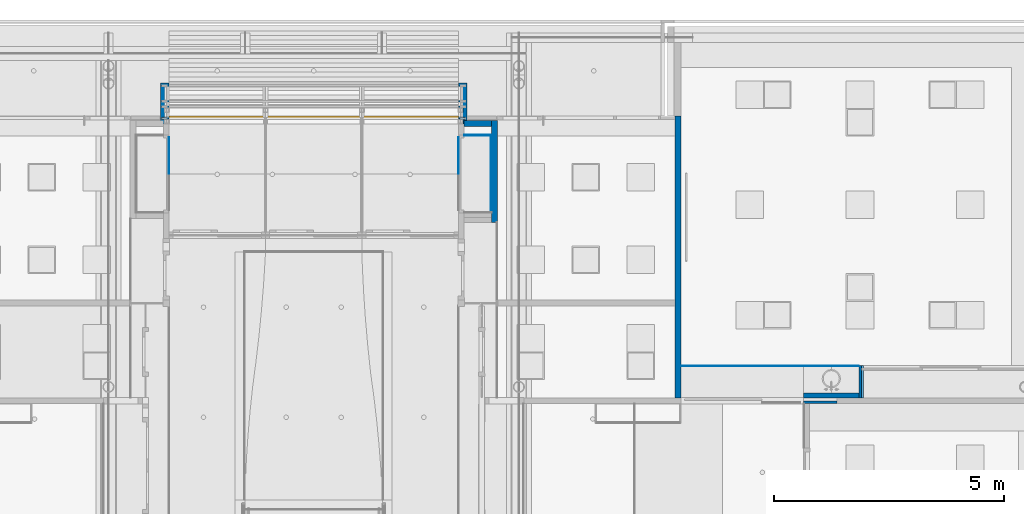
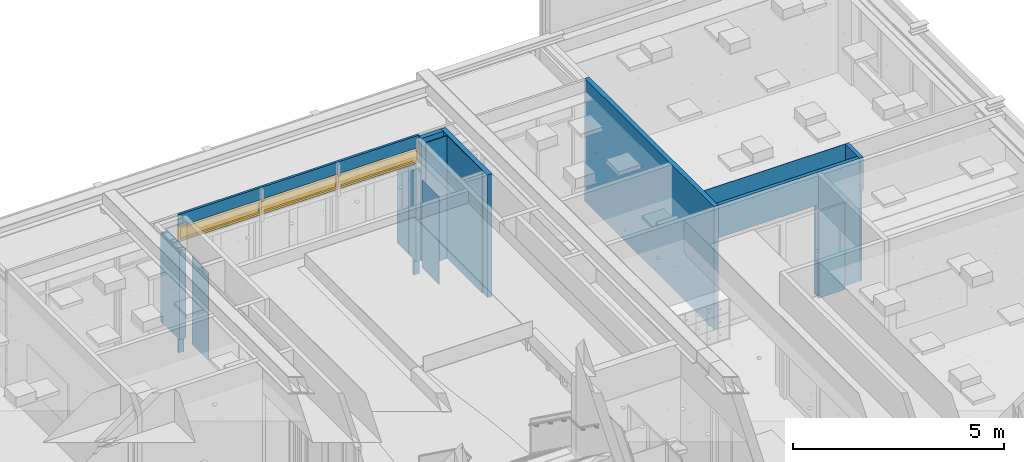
# One storey, part 84 of 347: 15 walls, 1 window, 3 openings.
"""IFC2X3 building model written with IfcOpenShell, lengths in millimetres."""

import ifcopenshell
import ifcopenshell.guid

model = None  # the IFC model being written
_history = None  # IfcOwnerHistory: only IFC2X3 demands one
_inside = {}  # id of a spatial element -> (the spatial element, [elements in it])
_under = {}  # id of a project, library or spatial element -> (it, [spatial elements below it])
_declared = {}  # id of a project -> (the project, [libraries it declares])
_typed = {}  # id of a type object -> (the type object, [elements of that type])
_made_of = {}  # id of a material, layer set ... -> (it, [elements and type objects made of it])


def new_model(schema):
    """Start an empty IFC model of exactly this schema.

    Asked for "IFC4X3", IfcOpenShell would pick the latest addendum, in which some entities
    have other attributes; the version numbers below select the first issue.
    IFC2X3 requires an IfcOwnerHistory on every rooted entity: one is made here for all.
    """
    global model, _history
    if schema == "IFC4X3":
        model = ifcopenshell.file(schema_version=(4, 3, 0, 0))
    else:
        model = ifcopenshell.file(schema=schema)
    _inside.clear()
    _under.clear()
    _declared.clear()
    _typed.clear()
    _made_of.clear()
    _history = None
    if model.schema == "IFC2X3":
        org = make("IfcOrganization", Name="unknown")
        user = make(
            "IfcPersonAndOrganization",
            ThePerson=make("IfcPerson", FamilyName="unknown"),
            TheOrganization=org,
        )
        app = make(
            "IfcApplication",
            ApplicationDeveloper=org,
            Version="unknown",
            ApplicationFullName="unknown",
            ApplicationIdentifier="unknown",
        )
        _history = make(
            "IfcOwnerHistory",
            OwningUser=user,
            OwningApplication=app,
            ChangeAction="ADDED",
            CreationDate=0,
        )
    return model


def make(cls, **values):
    """One entity of the class cls with the attributes given. An attribute that is None is left unset."""
    return model.create_entity(
        cls, **{name: value for name, value in values.items() if value is not None}
    )


def entity(cls, *values):
    """Any entity or typed value of the class cls, its attributes in the order of the schema. None: left unset."""
    e = model.create_entity(cls)
    for i, value in enumerate(values):
        if value is not None:
            e[i] = value
    return e


def rooted(cls, **values):
    """An entity with a GlobalId (a new one), such as an element, a storey or a relation."""
    return make(cls, GlobalId=ifcopenshell.guid.new(), OwnerHistory=_history, **values)


def si_unit(unit_type, name, prefix=None):
    """IfcSIUnit, for example si_unit("LENGTHUNIT", "METRE", prefix="MILLI")."""
    return make("IfcSIUnit", UnitType=unit_type, Prefix=prefix, Name=name)


def converted_unit(unit_type, name, factor, base, dimensions=None, offset=None):
    """IfcConversionBasedUnit, such as the inch: factor (a typed value) times the base unit."""
    return make(
        "IfcConversionBasedUnit"
        if offset is None
        else "IfcConversionBasedUnitWithOffset",
        ConversionOffset=offset,
        Dimensions=None
        if dimensions is None
        else entity("IfcDimensionalExponents", *dimensions),
        UnitType=unit_type,
        Name=name,
        ConversionFactor=make(
            "IfcMeasureWithUnit", ValueComponent=factor, UnitComponent=base
        ),
    )


def derived_unit(unit_type, elements):
    """IfcDerivedUnit: a product of units, each with its exponent."""
    return make(
        "IfcDerivedUnit",
        Elements=[
            make("IfcDerivedUnitElement", Unit=unit, Exponent=power)
            for unit, power in elements
        ],
        UnitType=unit_type,
    )


def money_unit(currency):
    """IfcMonetaryUnit."""
    return make("IfcMonetaryUnit", Currency=currency)


def assignment(units):
    """IfcUnitAssignment: the units of a project."""
    return None if units is None else make("IfcUnitAssignment", Units=units)


def point(xyz):
    """IfcCartesianPoint."""
    return None if xyz is None else make("IfcCartesianPoint", Coordinates=xyz)


def direction(xyz):
    """IfcDirection."""
    return None if xyz is None else make("IfcDirection", DirectionRatios=xyz)


def frame(location, z_axis=None, x_axis=None):
    """IfcAxis2Placement3D, a coordinate frame: its origin and axes. An axis left out is left unset."""
    return make(
        "IfcAxis2Placement3D",
        Location=point(location),
        Axis=direction(z_axis),
        RefDirection=direction(x_axis),
    )


def origin_with_axes():
    """The frame at (0, 0, 0) with the z axis (0, 0, 1) and the x axis (1, 0, 0) written out."""
    return frame((0.0, 0.0, 0.0), z_axis=(0.0, 0.0, 1.0), x_axis=(1.0, 0.0, 0.0))


def place(relative_to, where):
    """IfcLocalPlacement: puts the frame where relative to a parent placement (None: the world)."""
    return make(
        "IfcLocalPlacement", PlacementRelTo=relative_to, RelativePlacement=where
    )


def context(
    kind, dimensions, precision=None, world=None, true_north=None, identifier=None
):
    """IfcGeometricRepresentationContext, for example the 3D "Model" context."""
    return make(
        "IfcGeometricRepresentationContext",
        ContextIdentifier=identifier,
        ContextType=kind,
        CoordinateSpaceDimension=dimensions,
        Precision=precision,
        WorldCoordinateSystem=world,
        TrueNorth=true_north,
    )


def subcontext(parent, identifier, kind, view, scale=None):
    """IfcGeometricRepresentationSubContext, for example "Body" below "Model"."""
    return make(
        "IfcGeometricRepresentationSubContext",
        ContextIdentifier=identifier,
        ContextType=kind,
        ParentContext=parent,
        TargetScale=scale,
        TargetView=view,
    )


def project(units=None, contexts=None):
    """IfcProject with its units and contexts."""
    return rooted(
        "IfcProject",
        Name="project",
        RepresentationContexts=contexts,
        UnitsInContext=assignment(units),
    )


def spatial(cls, under=None, at=None, **own):
    """A site, building, storey or space (cls), placed at a placement, below another one or the project."""
    s = rooted(cls, ObjectPlacement=at, **own)
    if under is not None:
        _under.setdefault(under.id(), (under, []))[1].append(s)
    return s


def faces_of(points, faces, orient=None, outer=None):
    """IfcFace entities. A face is a list of loops; a loop is a list of indices into points, from 0.

    orient and outer hold one flag for each loop. By default every Orientation is true, the
    first loop of a face is its IfcFaceOuterBound and the others are IfcFaceBound.
    """
    made = []
    for i, loops in enumerate(faces):
        bounds = []
        for j, loop in enumerate(loops):
            is_outer = j == 0 if outer is None else outer[i][j]
            bounds.append(
                make(
                    "IfcFaceOuterBound" if is_outer else "IfcFaceBound",
                    Bound=make("IfcPolyLoop", Polygon=[points[k] for k in loop]),
                    Orientation=True if orient is None else orient[i][j],
                )
            )
        made.append(make("IfcFace", Bounds=bounds))
    return made


def open_shell(faces, orient=None, outer=None):
    """The faces of one IfcOpenShell. surface_model builds it on its shared points."""
    return ("IfcOpenShell", faces, orient, outer)


def faceted_brep(points, faces, orient=None, outer=None, voids=None):
    """IfcFacetedBrep: a solid bounded by flat faces; with voids (closed shells), ...WithVoids."""
    shared = [point(p) for p in points]
    hull = make("IfcClosedShell", CfsFaces=faces_of(shared, faces, orient, outer))
    if voids is None:
        return make("IfcFacetedBrep", Outer=hull)
    return make(
        "IfcFacetedBrepWithVoids",
        Outer=hull,
        Voids=[
            make(cls, CfsFaces=faces_of(shared, fs, o, b)) for cls, fs, o, b in voids
        ],
    )


def surface_model(cls, points, shells):
    """IfcFaceBasedSurfaceModel or IfcShellBasedSurfaceModel (cls): surfaces that need not close."""
    shared = [point(p) for p in points]
    made = [make(c, CfsFaces=faces_of(shared, fs, o, b)) for c, fs, o, b in shells]
    if cls == "IfcFaceBasedSurfaceModel":
        return make(cls, FbsmFaces=made)
    return make(cls, SbsmBoundary=made)


def shape(context_of_items, identifier, shape_type, items):
    """IfcShapeRepresentation: the items that make up one representation, for example the "Body"."""
    return make(
        "IfcShapeRepresentation",
        ContextOfItems=context_of_items,
        RepresentationIdentifier=identifier,
        RepresentationType=shape_type,
        Items=items,
    )


def material(Name=None, Category=None):
    """IfcMaterial."""
    return make("IfcMaterial", Name=Name, Category=Category)


def made_of(thing, what):
    """Note that an element or type object is made of a material, layer set ...; save() writes the relation."""
    if what is not None:
        _made_of.setdefault(what.id(), (what, []))[1].append(thing)
    return thing


def type_object(cls, material=None, **own):
    """A type object (cls), such as IfcWallType, which elements share."""
    return made_of(rooted(cls, **own), material)


def element(
    cls,
    number,
    at=None,
    inside=None,
    cuts=None,
    type_object=None,
    material=None,
    context=None,
    identifier="Body",
    shape_type=None,
    held_by="IfcProductDefinitionShape",
    body=None,
    shapes=None,
    **own,
):
    """One element of the class cls, such as IfcWall. Its Tag is "e" and its number.

    at: its placement. inside: the storey or other place that contains it. cuts: it is an
    opening in that element (IfcRelVoidsElement). A single representation is given by context,
    identifier, shape_type and body (its items); several are given by shapes. held_by: the class
    of the entity that holds the representations. save() writes the other relations.
    """
    e = rooted(cls, Tag="e%d" % number, ObjectPlacement=at, **own)
    if body is not None:
        shapes = [shape(context, identifier, shape_type, body)]
    if shapes is not None:
        e.Representation = make(held_by, Representations=shapes)
    if inside is not None:
        _inside.setdefault(inside.id(), (inside, []))[1].append(e)
    if cuts is not None:
        rooted(
            "IfcRelVoidsElement", RelatingBuildingElement=cuts, RelatedOpeningElement=e
        )
    if type_object is not None:
        _typed.setdefault(type_object.id(), (type_object, []))[1].append(e)
    return made_of(e, material)


def fill(opening, filler):
    """IfcRelFillsElement: the door or window that sits in an opening."""
    return rooted(
        "IfcRelFillsElement",
        RelatingOpeningElement=opening,
        RelatedBuildingElement=filler,
    )


def aggregate(whole, parts):
    """IfcRelAggregates: a whole, such as a stair, and the parts it consists of."""
    return rooted("IfcRelAggregates", RelatingObject=whole, RelatedObjects=parts)


def save(model, path):
    """Write the relations noted so far, then the file.

    IfcRelAggregates (storeys below a building ...), IfcRelContainedInSpatialStructure (elements
    in a storey), IfcRelDefinesByType, IfcRelAssociatesMaterial and IfcRelDeclares: one each for
    every whole, place, type object, material and project.
    """
    for whole, parts in _under.values():
        aggregate(whole, parts)
    for where, things in _inside.values():
        rooted(
            "IfcRelContainedInSpatialStructure",
            RelatedElements=things,
            RelatingStructure=where,
        )
    for kind, things in _typed.values():
        rooted("IfcRelDefinesByType", RelatedObjects=things, RelatingType=kind)
    for what, things in _made_of.values():
        rooted("IfcRelAssociatesMaterial", RelatedObjects=things, RelatingMaterial=what)
    for by, libraries in _declared.values():
        rooted("IfcRelDeclares", RelatingContext=by, RelatedDefinitions=libraries)
    model.write(path)


model = new_model("IFC2X3")

# Units and contexts
model_context = context("Model", 3, precision=0.01, world=origin_with_axes(), true_north=direction((0.0, 1.0)))
plan_context = context("Plan", 3, precision=0.01, world=origin_with_axes(), true_north=direction((0.0, 1.0)))
body_context = subcontext(model_context, "Body", "Model", "MODEL_VIEW")
ifc_project = project(units=[si_unit("LENGTHUNIT", "METRE", prefix="MILLI"), si_unit("AREAUNIT", "SQUARE_METRE"), si_unit("VOLUMEUNIT", "CUBIC_METRE"), converted_unit("PLANEANGLEUNIT", "DEGREE", entity("IfcPlaneAngleMeasure", 0.0174532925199), si_unit("PLANEANGLEUNIT", "RADIAN"), dimensions=[0, 0, 0, 0, 0, 0, 0]), money_unit("EUR"), converted_unit("TIMEUNIT", "Year", entity("IfcTimeMeasure", 31556926.0), si_unit("TIMEUNIT", "SECOND"), dimensions=[0, 0, 1, 0, 0, 0, 0]), si_unit("MASSUNIT", "GRAM", prefix="KILO"), si_unit("THERMODYNAMICTEMPERATUREUNIT", "DEGREE_CELSIUS"), si_unit("LUMINOUSINTENSITYUNIT", "LUMEN"), si_unit("ENERGYUNIT", "JOULE", prefix="MEGA"), derived_unit("THERMALCONDUCTANCEUNIT", [(si_unit("POWERUNIT", "WATT"), 1), (si_unit("LENGTHUNIT", "METRE"), -1), (si_unit("THERMODYNAMICTEMPERATUREUNIT", "KELVIN"), -1)]), derived_unit("SPECIFICHEATCAPACITYUNIT", [(si_unit("ENERGYUNIT", "JOULE"), 1), (si_unit("MASSUNIT", "GRAM", prefix="KILO"), -1), (si_unit("THERMODYNAMICTEMPERATUREUNIT", "KELVIN"), -1)]), derived_unit("MASSDENSITYUNIT", [(si_unit("MASSUNIT", "GRAM", prefix="KILO"), 1), (si_unit("VOLUMEUNIT", "CUBIC_METRE"), -1)])], contexts=[model_context, plan_context])

# Site, building, storey
site_placement = place(None, origin_with_axes())
site = spatial("IfcSite", under=ifc_project, at=site_placement, Name="Site", CompositionType="ELEMENT")
building_placement = place(site_placement, origin_with_axes())
building = spatial("IfcBuilding", under=site, at=building_placement, Name="Naam gebouw", CompositionType="ELEMENT")
storey_placement = place(building_placement, origin_with_axes())
storey = spatial("IfcBuildingStorey", under=building, at=storey_placement, Name="begane grond", CompositionType="ELEMENT", Elevation=0.0)

# Walls
ifc_material_1 = material(Name="ALG - LICHTE SCHEIDINGSWAND")
wall_type_1 = type_object("IfcWallType", Name="ALG LSW 125 125", PredefinedType="NOTDEFINED")
wall_1_placement = place(storey_placement, frame((44075.0, 42910.5, 0.0), z_axis=(0.0, 0.0, 1.0), x_axis=(0.0, 1.0, 0.0)))
element("IfcWall", 1, at=wall_1_placement, inside=storey, type_object=wall_type_1, material=ifc_material_1, Name="22_GF 125 ECO DGS/2.75.2A", context=body_context, shape_type="Brep", body=[
    faceted_brep([(2214.5, 0.0, 3560.0), (2214.5, 125.0, 3560.0), (0.0, 125.0, 3560.0), (0.0, 0.0, 3560.0), (2214.5, 125.0, 0.0), (2214.5, 0.0, 0.0), (0.0, 125.0, 0.0), (0.0, 0.0, 0.0)], [[[0, 1, 2, 3]], [[4, 1, 0, 5]], [[4, 6, 2, 1]], [[6, 7, 3, 2]], [[5, 0, 3, 7]], [[4, 5, 7, 6]]]),
])
wall_2_placement = place(storey_placement, frame((48075.0, 38962.5, 0.0), z_axis=(0.0, 0.0, 1.0), x_axis=(0.0, 1.0, 0.0)))
element("IfcWall", 2, at=wall_2_placement, inside=storey, type_object=wall_type_1, material=ifc_material_1, Name="22_GF 125 ECO DGS/2.75.2A", context=body_context, shape_type="Brep", body=[
    faceted_brep([(125.0, 125.0, 0.0), (6262.5, 125.0, 0.0), (6262.5, 0.0, 0.0), (125.0, 0.0, 0.0), (125.0, 125.0, 3560.0), (6262.5, 125.0, 3560.0), (6262.5, 0.0, 3560.0), (125.0, 0.0, 3560.0)], [[[0, 1, 2, 3]], [[4, 5, 1, 0]], [[2, 1, 5, 6]], [[3, 2, 6, 7]], [[4, 0, 3, 7]], [[7, 6, 5, 4]]]),
])
wall_3_placement = place(storey_placement, frame((44075.0, 45000.0, 0.0), z_axis=(0.0, 0.0, 1.0), x_axis=(-1.0, 0.0, 0.0)))
element("IfcWall", 3, at=wall_3_placement, inside=storey, type_object=wall_type_1, material=ifc_material_1, Name="22_GF 125 ECO DGS/2.75.2A", context=body_context, shape_type="Brep", body=[
    faceted_brep([(725.0, -125.0, 0.0), (725.0, -125.0, 2580.0), (665.0, -125.0, 2580.0), (665.0, -125.0, 2765.0), (725.0, -125.0, 2765.0), (725.0, -125.0, 3560.0), (125.0, -125.0, 3560.0), (125.0, -125.0, 0.0), (725.0, -53.0, 2765.0), (725.0, -53.0, 2580.0), (725.0, 0.0, 0.0), (725.0, 0.0, 3560.0), (665.0, -53.0, 2580.0), (665.0, -53.0, 2765.0), (125.0, 0.0, 3560.0), (125.0, 0.0, 0.0)], [[[0, 1, 2, 3, 4, 5, 6, 7]], [[8, 9, 1, 0, 10, 11, 5, 4]], [[12, 2, 1, 9]], [[13, 3, 2, 12]], [[8, 4, 3, 13]], [[6, 5, 11, 14]], [[15, 7, 6, 14]], [[15, 10, 0, 7]], [[12, 9, 8, 13]], [[14, 11, 10, 15]]]),
])
wall_type_2 = type_object("IfcWallType", Name="44 koof 50", PredefinedType="NOTDEFINED")
wall_4_placement = place(storey_placement, frame((48075.0, 39787.5, 2600.0), z_axis=(0.0, 0.0, 1.0), x_axis=(1.0, 0.0, 0.0)))
element("IfcWall", 4, at=wall_4_placement, inside=storey, type_object=wall_type_2, material=ifc_material_1, Name="21_22 betonwand", context=body_context, shape_type="Brep", body=[
    faceted_brep([(3875.0, -12.0, 960.0), (3875.0, -12.0, 12.0), (3875.0, 0.0, 12.0), (3875.0, 0.0, 960.0), (0.0, -12.0, 960.0), (0.0, -12.0, 12.0), (0.0, 0.0, 12.0), (0.0, 0.0, 960.0)], [[[0, 1, 2, 3]], [[4, 5, 1, 0]], [[5, 6, 2, 1]], [[3, 2, 6, 7]], [[7, 4, 0, 3]], [[7, 6, 5, 4]]]),
])
ifc_material_2 = material(Name="Hout - Spaanplaat slave")
wall_type_3 = type_object("IfcWallType", Name="Hout - Spaanplaat slave 18", PredefinedType="NOTDEFINED")
wall_5_placement = place(storey_placement, frame((43225.0, 44815.5, 0.0), z_axis=(0.0, 0.0, 1.0), x_axis=(1.0, 0.0, 0.0)))
element("IfcWall", 5, at=wall_5_placement, inside=storey, type_object=wall_type_3, material=ifc_material_2, Name="22_GF 125 ECO DGS/2.75.3A", context=body_context, shape_type="Brep", body=[
    faceted_brep([(707.0, 0.0, 0.0), (125.0, 0.0, 0.0), (125.0, 0.0, 3560.0), (707.0, 0.0, 3560.0), (707.0, -18.0, 0.0), (125.0, -18.0, 0.0), (125.0, -18.0, 3560.0), (707.0, -18.0, 3560.0)], [[[0, 1, 2, 3]], [[1, 0, 4, 5]], [[1, 5, 6, 2]], [[2, 6, 7, 3]], [[4, 0, 3, 7]], [[5, 4, 7, 6]]]),
])
wall_6_placement = place(storey_placement, frame((43950.0, 43115.5, 0.0), z_axis=(0.0, 0.0, 1.0), x_axis=(0.0, 1.0, 0.0)))
element("IfcWall", 6, at=wall_6_placement, inside=storey, type_object=wall_type_3, material=ifc_material_2, Name="22_GF 125 ECO DGS/2.75.2A", context=body_context, shape_type="Brep", body=[
    faceted_brep([(1700.0, 18.0, 0.0), (1700.0, 18.0, 3560.0), (1700.0, 0.0, 3560.0), (1700.0, 0.0, 0.0), (18.0, 18.0, 0.0), (18.0, 18.0, 3560.0), (18.0, -1.47521532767e-05, 3560.0), (18.0, -1.47521532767e-05, 0.0)], [[[0, 1, 2, 3]], [[4, 5, 1, 0]], [[5, 6, 2, 1]], [[3, 2, 6, 7]], [[0, 3, 7, 4]], [[7, 6, 5, 4]]]),
])

# Wall, opening
wall_type_4 = type_object("IfcWallType", Name="ALG LSW 100", PredefinedType="NOTDEFINED")
wall_7_placement = place(storey_placement, frame((48075.0, 39187.5, 0.0), z_axis=(0.0, 0.0, 1.0), x_axis=(1.0, 0.0, 0.0)))
wall_7 = element("IfcWall", 7, at=wall_7_placement, inside=storey, type_object=wall_type_4, material=ifc_material_1, Name="22_GF 125 ECO DGS/2.75.2A", context=body_context, shape_type="Brep", body=[
    faceted_brep([(2675.0, 0.0, 0.0), (2675.0, 0.0, 2600.0), (2675.0, 0.0, 2612.0), (0.0, 0.0, 2612.0), (0.0, 0.0, 3560.0), (3875.0, 0.0, 3560.0), (3875.0, 0.0, 2600.0), (3875.0, 0.0, 0.0), (2675.0, -100.0, 2600.0), (2675.0, -100.0, 0.0), (2675.0, -100.0, 2612.0), (0.0, -100.0, 2612.0), (0.0, -100.0, 3560.0), (3875.0, -100.0, 3560.0), (3875.0, -100.0, 2600.0), (3875.0, -100.0, 0.0)], [[[0, 1, 2, 3, 4, 5, 6, 7]], [[8, 1, 0, 9]], [[1, 8, 10, 2]], [[3, 2, 10, 11]], [[12, 4, 3, 11]], [[13, 5, 4, 12]], [[14, 15, 7, 6, 5, 13]], [[9, 0, 7, 15]], [[8, 9, 15, 14, 13, 12, 11, 10]]]),
])
opening_1_placement = place(wall_7_placement, frame((1337.5, 0.0, 0.0), z_axis=(0.0, 0.0, 1.0), x_axis=(1.0, 0.0, 0.0)))
element("IfcOpeningElement", 8, at=opening_1_placement, cuts=wall_7, Name="32_-", context=body_context, shape_type="Brep", body=[
    faceted_brep([(-1337.5, -100.0, 0.0), (-1337.5, -100.0, 2600.0), (-1337.5, 200.0, 2600.0), (-1337.5, 200.0, 0.0), (1337.5, -100.0, 0.0), (1337.5, -100.0, 2600.0), (1337.5, 200.0, 2600.0), (1337.5, 200.0, 0.0)], [[[0, 1, 2, 3]], [[0, 4, 5, 1]], [[1, 5, 6, 2]], [[3, 2, 6, 7]], [[4, 0, 3, 7]], [[5, 4, 7, 6]]]),
])

# Wall, openings, window
ifc_material_3 = material(Name="31 pui/kozijn")
wall_type_5 = type_object("IfcWallType", Name="31 pui/kozijn 62", PredefinedType="NOTDEFINED")
wall_8_placement = place(storey_placement, frame((36775.0, 45153.0, -450.0), z_axis=(0.0, 0.0, 1.0), x_axis=(1.0, 0.0, 0.0)))
wall_8 = element("IfcWall", 9, at=wall_8_placement, inside=storey, type_object=wall_type_5, material=ifc_material_3, Name="21_53 wandtegels keramisch", context=body_context, shape_type="Brep", body=[
    faceted_brep([(110.0, 38.0, 450.0), (110.0, 5.0, 450.0), (150.0, 5.0, 450.0), (150.0, 62.0, 450.0), (0.0, 62.0, 450.0), (0.0, 38.0, 450.0), (110.0, 38.0, 380.0), (110.0, 5.0, 380.0), (150.0, 5.0, 380.0), (150.0, 0.0, 380.0), (150.0, 0.0, 0.0), (150.0, 62.0, 0.0), (0.0, 62.0, 0.0), (0.0, 0.0, 380.0), (0.0, 38.0, 380.0), (0.0, 0.0, 0.0), (145.0, 0.0, 380.0)], [[[0, 1, 2, 3, 4, 5]], [[6, 7, 1, 0]], [[7, 8, 2, 1]], [[2, 8, 9, 10, 11, 3]], [[4, 3, 11, 12]], [[13, 14, 5, 4, 12, 15]], [[6, 0, 5, 14]], [[13, 16, 9, 8, 7, 6, 14]], [[9, 16, 13, 15, 10]], [[15, 12, 11, 10]]]),
    faceted_brep([(6450.0, 62.0, 450.0), (6450.0, 5.0, 450.0), (6490.0, 5.0, 450.0), (6490.0, 38.0, 450.0), (6600.0, 38.0, 450.0), (6600.0, 62.0, 450.0), (6450.0, 0.0, 380.0), (6450.0, 5.0, 380.0), (6450.0, 62.0, 0.0), (6450.0, 0.0, 0.0), (6490.0, 5.0, 380.0), (6490.0, 38.0, 380.0), (6600.0, 38.0, 380.0), (6600.0, 0.0, 380.0), (6600.0, 0.0, 0.0), (6600.0, 62.0, 0.0), (6455.0, 0.0, 380.0)], [[[0, 1, 2, 3, 4, 5]], [[6, 7, 1, 0, 8, 9]], [[7, 10, 2, 1]], [[3, 2, 10, 11]], [[11, 12, 4, 3]], [[4, 12, 13, 14, 15, 5]], [[15, 8, 0, 5]], [[11, 10, 7, 6, 16, 13, 12]], [[15, 14, 9, 8]], [[13, 16, 6, 9, 14]]]),
    faceted_brep([(0.0, 62.0, 3225.0), (6600.0, 62.0, 3225.0), (6600.0, 62.0, 3215.0), (0.0, 62.0, 3215.0), (6600.0, 0.0, 3225.0), (0.0, 0.0, 3225.0), (6600.0, 0.0, 3215.0), (0.0, 0.0, 3215.0)], [[[0, 1, 2, 3]], [[4, 1, 0, 5]], [[1, 4, 6, 2]], [[3, 2, 6, 7]], [[5, 0, 3, 7]], [[4, 5, 7, 6]]]),
    faceted_brep([(6600.0, 0.0, 3660.0), (6600.0, 62.0, 3660.0), (6600.0, 62.0, 4010.0), (6600.0, 0.0, 4010.0), (0.0, 62.0, 3660.0), (0.0, 0.0, 3660.0), (0.0, 62.0, 4010.0), (0.0, 0.0, 4010.0)], [[[0, 1, 2, 3]], [[4, 1, 0, 5]], [[1, 4, 6, 2]], [[6, 7, 3, 2]], [[5, 0, 3, 7]], [[4, 5, 7, 6]]]),
])
opening_2_placement = place(wall_8_placement, frame((3300.0, 0.0, 3225.0), z_axis=(0.0, 0.0, 1.0), x_axis=(1.0, 0.0, 0.0)))
opening_2 = element("IfcOpeningElement", 10, at=opening_2_placement, cuts=wall_8, Name="32_merk-AQ", context=body_context, shape_type="Brep", body=[
    faceted_brep([(3300.0, 134.0, 0.0), (3300.0, 134.0, 435.0), (3300.0, -62.0, 435.0), (3300.0, -62.0, 0.0), (-3300.0, 134.0, 0.0), (-3300.0, 134.0, 435.0), (-3300.0, -62.0, 435.0), (-3300.0, -62.0, 0.0)], [[[0, 1, 2, 3]], [[0, 4, 5, 1]], [[1, 5, 6, 2]], [[3, 2, 6, 7]], [[4, 0, 3, 7]], [[5, 4, 7, 6]]]),
])
opening_3_placement = place(wall_8_placement, frame((3300.0, 0.0, 450.0), z_axis=(0.0, 0.0, 1.0), x_axis=(1.0, 0.0, 0.0)))
element("IfcOpeningElement", 11, at=opening_3_placement, cuts=wall_8, Name="32_-", context=body_context, shape_type="Brep", body=[
    faceted_brep([(-3150.0, -62.0, 0.0), (-3150.0, -62.0, 2600.0), (-3150.0, 124.0, 2600.0), (-3150.0, 124.0, 0.0), (3150.0, -62.0, 0.0), (3150.0, -62.0, 2600.0), (3150.0, 124.0, 2600.0), (3150.0, 124.0, 0.0)], [[[0, 1, 2, 3]], [[0, 4, 5, 1]], [[1, 5, 6, 2]], [[3, 2, 6, 7]], [[4, 0, 3, 7]], [[5, 4, 7, 6]]]),
])
window_style = type_object("IfcWindowStyle", Name="Rnx horizontaal 25", ConstructionType="NOTDEFINED", OperationType="TRIPLE_PANEL_VERTICAL", ParameterTakesPrecedence=False, Sizeable=False)
window_placement = place(opening_2_placement, frame((3300.0, 0.0, 0.0), z_axis=(0.0, 0.0, 1.0), x_axis=(-1.0, 0.0, 0.0)))
window = element("IfcWindow", 12, at=window_placement, inside=storey, type_object=window_style, Name="32_merk-AQ", ObjectType="WINDOW", OverallHeight=435.0, OverallWidth=6600.0, context=body_context, shape_type="SurfaceModel", body=[
    faceted_brep([(6546.0, -72.0, 381.0), (6600.0, -72.0, 381.0), (6600.0, 0.0, 381.0), (6546.0, 0.0, 381.0), (6546.0, -72.0, 54.0), (6600.0, -72.0, 54.0), (6600.0, 0.0, 54.0), (6546.0, 0.0, 54.0)], [[[0, 1, 2, 3]], [[0, 4, 5, 1]], [[1, 5, 6, 2]], [[3, 2, 6, 7]], [[4, 0, 3, 7]], [[5, 4, 7, 6]]]),
    faceted_brep([(54.0, -72.0, 54.0), (0.0, -72.0, 54.0), (0.0, 0.0, 54.0), (54.0, 0.0, 54.0), (54.0, -72.0, 381.0), (0.0, -72.0, 381.0), (0.0, 0.0, 381.0), (54.0, 0.0, 381.0)], [[[0, 1, 2, 3]], [[0, 4, 5, 1]], [[1, 5, 6, 2]], [[3, 2, 6, 7]], [[4, 0, 3, 7]], [[5, 4, 7, 6]]]),
    faceted_brep([(54.0, -72.0, 381.0), (0.0, -72.0, 381.0), (0.0, 0.0, 381.0), (54.0, 0.0, 381.0), (2218.0, -72.0, 381.0), (2272.0, -72.0, 381.0), (4323.0, -72.0, 381.0), (4377.0, -72.0, 381.0), (6546.0, -72.0, 381.0), (6600.0, -72.0, 381.0), (6600.0, -72.0, 435.0), (0.0, -72.0, 435.0), (0.0, 0.0, 435.0), (6600.0, 0.0, 435.0), (6600.0, 0.0, 381.0), (6546.0, 0.0, 381.0), (4377.0, 0.0, 381.0), (4323.0, 0.0, 381.0), (2272.0, 0.0, 381.0), (2218.0, 0.0, 381.0)], [[[0, 1, 2, 3]], [[0, 4, 5, 6, 7, 8, 9, 10, 11, 1]], [[1, 11, 12, 2]], [[3, 2, 12, 13, 14, 15, 16, 17, 18, 19]], [[4, 0, 3, 19]], [[5, 4, 19, 18]], [[6, 5, 18, 17]], [[7, 6, 17, 16]], [[8, 7, 16, 15]], [[9, 8, 15, 14]], [[10, 9, 14, 13]], [[11, 10, 13, 12]]]),
    faceted_brep([(2218.0, -72.0, 54.0), (2272.0, -72.0, 54.0), (2272.0, 0.0, 54.0), (2218.0, 0.0, 54.0), (54.0, -72.0, 54.0), (0.0, -72.0, 54.0), (0.0, -72.0, 0.0), (6600.0, -72.0, 0.0), (6600.0, -72.0, 54.0), (6546.0, -72.0, 54.0), (4377.0, -72.0, 54.0), (4323.0, -72.0, 54.0), (4323.0, 0.0, 54.0), (4377.0, 0.0, 54.0), (6546.0, 0.0, 54.0), (6600.0, 0.0, 54.0), (6600.0, 0.0, 0.0), (0.0, 0.0, 0.0), (0.0, 0.0, 54.0), (54.0, 0.0, 54.0)], [[[0, 1, 2, 3]], [[0, 4, 5, 6, 7, 8, 9, 10, 11, 1]], [[1, 11, 12, 2]], [[3, 2, 12, 13, 14, 15, 16, 17, 18, 19]], [[4, 0, 3, 19]], [[5, 4, 19, 18]], [[6, 5, 18, 17]], [[7, 6, 17, 16]], [[8, 7, 16, 15]], [[9, 8, 15, 14]], [[10, 9, 14, 13]], [[11, 10, 13, 12]]]),
    faceted_brep([(4323.0, -72.0, 54.0), (4323.0, -72.0, 381.0), (4323.0, 0.0, 381.0), (4323.0, 0.0, 54.0), (4377.0, -72.0, 54.0), (4377.0, -72.0, 381.0), (4377.0, 0.0, 381.0), (4377.0, 0.0, 54.0)], [[[0, 1, 2, 3]], [[0, 4, 5, 1]], [[1, 5, 6, 2]], [[3, 2, 6, 7]], [[4, 0, 3, 7]], [[5, 4, 7, 6]]]),
    faceted_brep([(2218.0, -72.0, 54.0), (2218.0, -72.0, 381.0), (2218.0, 0.0, 381.0), (2218.0, 0.0, 54.0), (2272.0, -72.0, 54.0), (2272.0, -72.0, 381.0), (2272.0, 0.0, 381.0), (2272.0, 0.0, 54.0)], [[[0, 1, 2, 3]], [[0, 4, 5, 1]], [[1, 5, 6, 2]], [[3, 2, 6, 7]], [[4, 0, 3, 7]], [[5, 4, 7, 6]]]),
    surface_model("IfcShellBasedSurfaceModel", [(6546.0, -72.0, 54.0), (6546.0, -72.0, 381.0), (4377.0, -72.0, 381.0), (4377.0, -72.0, 54.0)], [open_shell([[[0, 1, 2, 3]]])]),
    surface_model("IfcShellBasedSurfaceModel", [(6546.0, -52.0, 54.0), (4377.0, -52.0, 54.0), (4377.0, -52.0, 381.0), (6546.0, -52.0, 381.0)], [open_shell([[[0, 1, 2, 3]]])]),
    surface_model("IfcShellBasedSurfaceModel", [(4323.0, -72.0, 54.0), (4323.0, -72.0, 381.0), (2272.0, -72.0, 381.0), (2272.0, -72.0, 54.0)], [open_shell([[[0, 1, 2, 3]]])]),
    surface_model("IfcShellBasedSurfaceModel", [(4323.0, -52.0, 54.0), (2272.0, -52.0, 54.0), (2272.0, -52.0, 381.0), (4323.0, -52.0, 381.0)], [open_shell([[[0, 1, 2, 3]]])]),
    surface_model("IfcShellBasedSurfaceModel", [(2218.0, -72.0, 54.0), (2218.0, -72.0, 381.0), (54.0, -72.0, 381.0), (54.0, -72.0, 54.0)], [open_shell([[[0, 1, 2, 3]]])]),
    surface_model("IfcShellBasedSurfaceModel", [(2218.0, -52.0, 54.0), (54.0, -52.0, 54.0), (54.0, -52.0, 381.0), (2218.0, -52.0, 381.0)], [open_shell([[[0, 1, 2, 3]]])]),
])
fill(opening_2, window)

# Walls
ifc_material_4 = material(Name="ALG - LICHTE SCHEIDINGSWAND - master")
wall_type_6 = type_object("IfcWallType", Name="ALG - LICHTE SCHEIDINGSWAND - master 60", PredefinedType="NOTDEFINED")
wall_9_placement = place(storey_placement, frame((50750.0, 39022.5, 0.0), z_axis=(0.0, 0.0, 1.0), x_axis=(1.0, 0.0, 0.0)))
element("IfcWall", 13, at=wall_9_placement, inside=storey, type_object=wall_type_6, material=ifc_material_4, Name="22_GF 125 ECO DGS/2.75.2A", context=body_context, shape_type="Brep", body=[
    faceted_brep([(0.0, 0.0, 0.0), (725.0, 0.0, 0.0), (725.0, -60.0, 0.0), (0.0, -60.0, 0.0), (0.0, 0.0, 2510.0), (725.0, 0.0, 2510.0), (725.0, -60.0, 2510.0), (0.0, -60.0, 2510.0)], [[[0, 1, 2, 3]], [[4, 5, 1, 0]], [[2, 1, 5, 6]], [[3, 2, 6, 7]], [[4, 0, 3, 7]], [[7, 6, 5, 4]]]),
])
ifc_material_5 = material(Name="ALG - PREFAB")
wall_type_7 = type_object("IfcWallType", Name="ALG - PREFAB 185", PredefinedType="NOTDEFINED")
wall_10_placement = place(storey_placement, frame((43225.0, 45053.0, 0.0), z_axis=(0.0, 0.0, 1.0), x_axis=(0.0, 1.0, 0.0)))
element("IfcWall", 14, at=wall_10_placement, inside=storey, type_object=wall_type_7, material=ifc_material_5, Name="22_GF 125 ECO DGS/2.75.6A", context=body_context, shape_type="Brep", body=[
    faceted_brep([(255.0, -95.0, 0.0), (255.0, -4.99999999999, 0.0), (345.0, -4.99999999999, 0.0), (345.0, -95.0, 0.0), (255.0, -95.0, 2580.0), (255.0, -4.99999999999, 2580.0), (345.0, -4.99999999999, 2580.0), (345.0, -95.0, 2580.0)], [[[0, 1, 2, 3]], [[0, 4, 5, 1]], [[1, 5, 6, 2]], [[2, 6, 7, 3]], [[3, 7, 4, 0]], [[6, 5, 4, 7]]]),
    faceted_brep([(100.0, -5.0, 2580.0), (9.99999999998, -5.0, 2580.0), (9.99999999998, -95.0, 2580.0), (100.0, -95.0, 2580.0), (9.99999999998, -5.0, 0.0), (100.0, -5.0, 0.0), (9.99999999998, -95.0, 0.0), (100.0, -95.0, 0.0)], [[[0, 1, 2, 3]], [[4, 1, 0, 5]], [[6, 2, 1, 4]], [[6, 7, 3, 2]], [[5, 0, 3, 7]], [[4, 5, 7, 6]]]),
    faceted_brep([(350.0, -100.0, 2580.0), (250.0, -100.0, 2580.0), (250.0, 0.0, 2580.0), (105.0, 0.0, 2580.0), (105.0, -40.0, 2580.0), (138.0, -40.0, 2580.0), (138.0, -160.0, 2580.0), (100.0, -160.0, 2580.0), (100.0, -100.0, 2580.0), (4.99999999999, -100.0, 2580.0), (4.99999999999, 0.0, 2580.0), (0.0, 0.0, 2580.0), (0.0, -185.0, 2580.0), (897.0, -185.0, 2580.0), (897.0, 0.0, 2580.0), (350.0, 0.0, 2580.0), (473.000000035, -160.0, 2580.0), (473.000000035, -40.0, 2580.0), (511.000000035, -40.0, 2580.0), (511.000000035, -160.0, 2580.0), (355.000000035, -160.0, 2580.0), (355.000000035, -40.0, 2580.0), (393.000000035, -40.0, 2580.0), (393.000000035, -160.0, 2580.0), (813.0, -160.0, 2580.0), (813.0, -40.0, 2580.0), (851.0, -40.0, 2580.0), (851.0, -160.0, 2580.0), (250.0, -100.0, 0.0), (350.0, -100.0, 0.0), (250.0, 0.0, 0.0), (105.0, 0.0, 0.0), (105.0, -40.0, 0.0), (138.0, -40.0, 0.0), (138.0, -160.0, 0.0), (100.0, -160.0, 0.0), (100.0, -100.0, 0.0), (4.99999999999, -100.0, 0.0), (4.99999999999, 0.0, 0.0), (0.0, 0.0, 0.0), (0.0, -185.0, 0.0), (897.0, -185.0, 0.0), (897.0, 0.0, 0.0), (350.0, 0.0, 0.0), (473.000000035, -40.0, 0.0), (473.000000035, -160.0, 0.0), (511.000000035, -40.0, 0.0), (511.000000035, -160.0, 0.0), (355.000000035, -40.0, 0.0), (355.000000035, -160.0, 0.0), (393.000000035, -40.0, 0.0), (393.000000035, -160.0, 0.0), (813.0, -40.0, 0.0), (813.0, -160.0, 0.0), (851.0, -40.0, 0.0), (851.0, -160.0, 0.0)], [[[0, 1, 2, 3, 4, 5, 6, 7, 8, 9, 10, 11, 12, 13, 14, 15], [16, 17, 18, 19], [20, 21, 22, 23], [24, 25, 26, 27]], [[28, 1, 0, 29]], [[30, 2, 1, 28]], [[3, 2, 30, 31]], [[31, 32, 4, 3]], [[5, 4, 32, 33]], [[34, 6, 5, 33]], [[35, 7, 6, 34]], [[35, 36, 8, 7]], [[37, 9, 8, 36]], [[38, 10, 9, 37]], [[11, 10, 38, 39]], [[39, 40, 12, 11]], [[40, 41, 13, 12]], [[41, 42, 14, 13]], [[42, 43, 15, 14]], [[29, 0, 15, 43]], [[44, 17, 16, 45]], [[46, 18, 17, 44]], [[47, 19, 18, 46]], [[45, 16, 19, 47]], [[48, 21, 20, 49]], [[50, 22, 21, 48]], [[51, 23, 22, 50]], [[49, 20, 23, 51]], [[52, 25, 24, 53]], [[54, 26, 25, 52]], [[55, 27, 26, 54]], [[53, 24, 27, 55]], [[28, 29, 43, 42, 41, 40, 39, 38, 37, 36, 35, 34, 33, 32, 31, 30], [46, 44, 45, 47], [50, 48, 49, 51], [54, 52, 53, 55]]]),
])
wall_11_placement = place(storey_placement, frame((36925.0, 45053.0, 0.0), z_axis=(0.0, 0.0, 1.0), x_axis=(0.0, 1.0, 0.0)))
element("IfcWall", 15, at=wall_11_placement, inside=storey, type_object=wall_type_7, material=ifc_material_5, Name="22_GF 125 ECO DGS/2.75.6A", context=body_context, shape_type="Brep", body=[
    faceted_brep([(100.0, 95.0, 2580.0), (9.99999999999, 95.0, 2580.0), (9.99999999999, 5.0, 2580.0), (100.0, 5.0, 2580.0), (9.99999999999, 95.0, 0.0), (100.0, 95.0, 0.0), (9.99999999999, 5.0, 0.0), (100.0, 5.0, 0.0)], [[[0, 1, 2, 3]], [[4, 1, 0, 5]], [[6, 2, 1, 4]], [[7, 3, 2, 6]], [[7, 5, 0, 3]], [[6, 4, 5, 7]]]),
    faceted_brep([(255.0, 5.0, 0.0), (255.0, 95.0, 0.0), (345.0, 95.0, 0.0), (345.0, 5.0, 0.0), (255.0, 5.0, 2580.0), (255.0, 95.0, 2580.0), (345.0, 95.0, 2580.0), (345.0, 5.0, 2580.0)], [[[0, 1, 2, 3]], [[0, 4, 5, 1]], [[1, 5, 6, 2]], [[2, 6, 7, 3]], [[3, 7, 4, 0]], [[6, 5, 4, 7]]]),
    faceted_brep([(250.0, 0.0, 2580.0), (250.0, 100.0, 2580.0), (350.0, 100.0, 2580.0), (350.0, 0.0, 2580.0), (897.0, 0.0, 2580.0), (897.0, 185.0, 2580.0), (0.0, 185.0, 2580.0), (0.0, 0.0, 2580.0), (5.0, 0.0, 2580.0), (5.0, 100.0, 2580.0), (100.0, 100.0, 2580.0), (100.0, 160.0, 2580.0), (138.0, 160.0, 2580.0), (138.0, 40.0, 2580.0), (105.0, 40.0, 2580.0), (105.0, 0.0, 2580.0), (473.000000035, 40.0, 2580.0), (473.000000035, 160.0, 2580.0), (511.000000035, 160.0, 2580.0), (511.000000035, 40.0, 2580.0), (355.000000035, 40.0, 2580.0), (355.000000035, 160.0, 2580.0), (393.000000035, 160.0, 2580.0), (393.000000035, 40.0, 2580.0), (813.0, 40.0, 2580.0), (813.0, 160.0, 2580.0), (851.0, 160.0, 2580.0), (851.0, 40.0, 2580.0), (250.0, 100.0, 0.0), (250.0, 0.0, 0.0), (350.0, 100.0, 0.0), (350.0, 0.0, 0.0), (897.0, 0.0, 0.0), (897.0, 185.0, 0.0), (0.0, 185.0, 0.0), (0.0, 0.0, 0.0), (5.0, 0.0, 0.0), (5.0, 100.0, 0.0), (100.0, 100.0, 0.0), (100.0, 160.0, 0.0), (138.0, 160.0, 0.0), (138.0, 40.0, 0.0), (105.0, 40.0, 0.0), (105.0, 0.0, 0.0), (473.000000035, 160.0, 0.0), (473.000000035, 40.0, 0.0), (511.000000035, 160.0, 0.0), (511.000000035, 40.0, 0.0), (355.000000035, 160.0, 0.0), (355.000000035, 40.0, 0.0), (393.000000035, 160.0, 0.0), (393.000000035, 40.0, 0.0), (813.0, 160.0, 0.0), (813.0, 40.0, 0.0), (851.0, 160.0, 0.0), (851.0, 40.0, 0.0)], [[[0, 1, 2, 3, 4, 5, 6, 7, 8, 9, 10, 11, 12, 13, 14, 15], [16, 17, 18, 19], [20, 21, 22, 23], [24, 25, 26, 27]], [[28, 1, 0, 29]], [[30, 2, 1, 28]], [[30, 31, 3, 2]], [[4, 3, 31, 32]], [[32, 33, 5, 4]], [[33, 34, 6, 5]], [[34, 35, 7, 6]], [[35, 36, 8, 7]], [[37, 9, 8, 36]], [[37, 38, 10, 9]], [[11, 10, 38, 39]], [[40, 12, 11, 39]], [[41, 13, 12, 40]], [[41, 42, 14, 13]], [[42, 43, 15, 14]], [[43, 29, 0, 15]], [[44, 17, 16, 45]], [[46, 18, 17, 44]], [[47, 19, 18, 46]], [[45, 16, 19, 47]], [[48, 21, 20, 49]], [[50, 22, 21, 48]], [[51, 23, 22, 50]], [[49, 20, 23, 51]], [[52, 25, 24, 53]], [[54, 26, 25, 52]], [[55, 27, 26, 54]], [[53, 24, 27, 55]], [[30, 28, 29, 43, 42, 41, 40, 39, 38, 37, 36, 35, 34, 33, 32, 31], [46, 44, 45, 47], [50, 48, 49, 51], [54, 52, 53, 55]]]),
])
ifc_material_6 = material(Name="32 schuideur")
wall_type_8 = type_object("IfcWallType", Name="32 schuideur 60", PredefinedType="NOTDEFINED")
wall_12_placement = place(storey_placement, frame((52010.0, 38962.5, 0.0), z_axis=(0.0, 0.0, 1.0), x_axis=(0.0, 1.0, 0.0)))
element("IfcWall", 16, at=wall_12_placement, inside=storey, type_object=wall_type_8, material=ifc_material_6, Name="22_GF 100 RD/2.50.2.", context=body_context, shape_type="Brep", body=[
    faceted_brep([(125.0, 60.0, 0.0), (825.0, 60.0, 0.0), (825.0, 0.0, 0.0), (125.0, 0.0, 0.0), (125.0, 60.0, 2600.0), (825.0, 60.0, 2600.0), (825.0, 0.0, 2600.0), (125.0, 0.0, 2600.0)], [[[0, 1, 2, 3]], [[4, 5, 1, 0]], [[2, 1, 5, 6]], [[3, 2, 6, 7]], [[4, 0, 3, 7]], [[7, 6, 5, 4]]]),
])
wall_type_9 = type_object("IfcWallType", Name="ALG LSW 100 kast 100", PredefinedType="NOTDEFINED")
wall_13_placement = place(storey_placement, frame((51950.0, 39187.5, 2600.0), z_axis=(0.0, 0.0, 1.0), x_axis=(0.0, 1.0, 0.0)))
element("IfcWall", 17, at=wall_13_placement, inside=storey, type_object=wall_type_9, material=ifc_material_1, Name="22_GF 125 ECO DGS/2.75.2A", context=body_context, shape_type="Brep", body=[
    faceted_brep([(-100.0, -100.0, 960.0), (600.000000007, -100.0, 960.0), (600.0, 0.0, 960.0), (-100.0, 0.0, 960.0), (-100.0, -100.0, 0.0), (600.000000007, -100.0, 0.0), (600.0, 0.0, 0.0), (-100.0, 0.0, 0.0)], [[[0, 1, 2, 3]], [[4, 5, 1, 0]], [[6, 2, 1, 5]], [[3, 2, 6, 7]], [[7, 4, 0, 3]], [[7, 6, 5, 4]]]),
])
ifc_material_7 = material(Name="Hout - Multiplex")
wall_type_10 = type_object("IfcWallType", Name="Hout - Multiplex 12", PredefinedType="NOTDEFINED")
wall_14_placement = place(storey_placement, frame((43225.0, 44762.5, 0.0), z_axis=(0.0, 0.0, 1.0), x_axis=(0.0, -1.0, 0.0)))
element("IfcWall", 18, at=wall_14_placement, inside=storey, type_object=wall_type_10, material=ifc_material_7, Name="22_GF 125 ECO DGS/2.75.2A", context=body_context, shape_type="Brep", body=[
    faceted_brep([(0.0, 12.0, 0.0), (795.5, 12.0, 0.0), (795.5, 0.0, 0.0), (0.0, 0.0, 0.0), (0.0, 12.0, 2547.0), (795.5, 12.0, 2547.0), (795.5, 0.0, 2547.0), (0.0, 0.0, 2547.0)], [[[0, 1, 2, 3]], [[4, 5, 1, 0]], [[2, 1, 5, 6]], [[3, 2, 6, 7]], [[4, 0, 3, 7]], [[7, 6, 5, 4]]]),
])
wall_15_placement = place(storey_placement, frame((36925.0, 44762.5, 0.0), z_axis=(0.0, 0.0, 1.0), x_axis=(0.0, -1.0, 0.0)))
element("IfcWall", 19, at=wall_15_placement, inside=storey, type_object=wall_type_10, material=ifc_material_7, Name="22_GF 125 ECO DGS/2.75.2A", context=body_context, shape_type="Brep", body=[
    faceted_brep([(0.0, -12.0, 2547.0), (795.5, -12.0, 2547.0), (795.5, 0.0, 2547.0), (0.0, 0.0, 2547.0), (0.0, -12.0, 0.0), (795.5, -12.0, 0.0), (795.5, 0.0, 0.0), (0.0, 0.0, 0.0)], [[[0, 1, 2, 3]], [[4, 5, 1, 0]], [[2, 1, 5, 6]], [[3, 2, 6, 7]], [[4, 0, 3, 7]], [[7, 6, 5, 4]]]),
])

save(model, "model.ifc")
